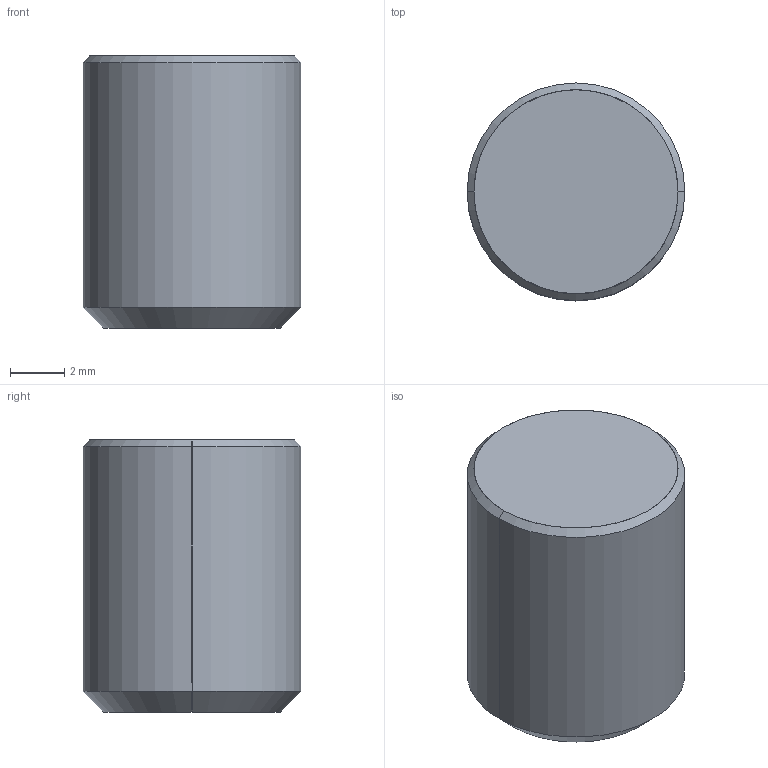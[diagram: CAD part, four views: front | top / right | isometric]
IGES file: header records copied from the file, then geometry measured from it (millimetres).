
Start section: SolidWorks IGES file using analytic representation for surfaces
Global section: file name: X:\11_SW2020-Inv2020\00_全2021-11新製品まで\s\SRP-080\srp-080.IGS; native system: SolidWorks 2020; preprocessor: SolidWorks 2020; author: ImaoCorp; date: 211025.132803; units: millimetre
Bounding box: 8 x 8 x 10 mm (x, y, z)
Surface area: 399 mm2 (no closed solid volume)
Topology: 0 solids, 0 shells, 11 faces, 160 edges, 160 vertices
Faces by surface type: revolution 8, bspline 3
